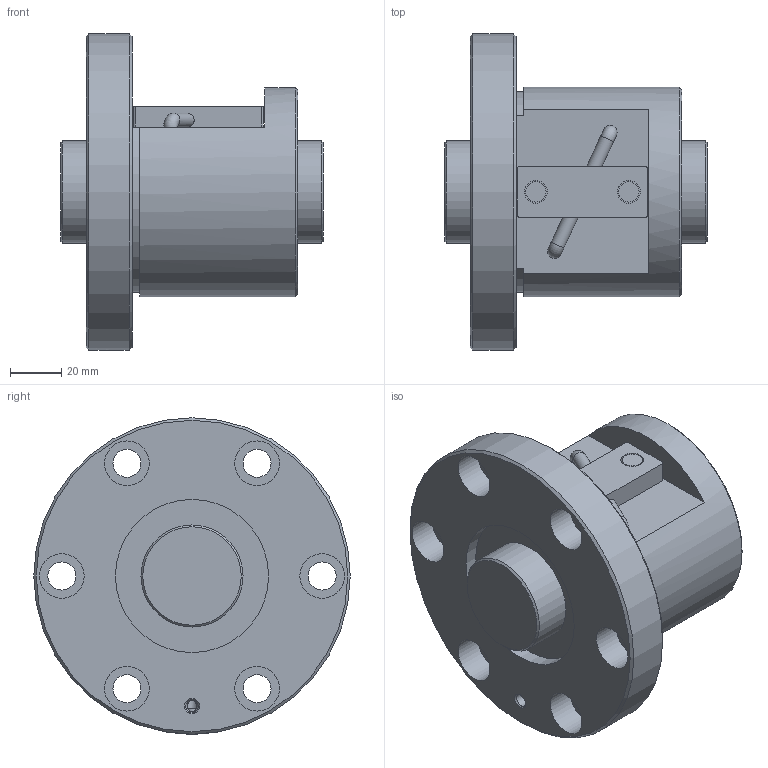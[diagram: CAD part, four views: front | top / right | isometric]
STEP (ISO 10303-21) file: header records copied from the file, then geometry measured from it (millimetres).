
FILE_DESCRIPTION(/* description */ ('STEP AP203'),/* implementation_level */ '2;1');
FILE_NAME(/* name */ 'BNF4010V-3.5RRG1+103LC0_000_rev',/* time_stamp */ '2024-08-06T08:40:53+02:00',/* author */ ('License CC BY-ND 4.0'),/* organization */ ('CADENAS'),/* preprocessor_version */ 'ST-DEVELOPER v19.3',/* originating_system */ 'PARTsolutions',/* authorisation */ ' ');
FILE_SCHEMA (('CONFIG_CONTROL_DESIGN'));
Length unit declared in the file: millimetre
Products named in the file (3): BNF4010V-3.5RRG1+103LC0_000_rev; BNF 4010-3.5RR000 Shaft; BNF 4010-3.5RR Nut
Assembly tree (2 placements, depth 2):
  BNF4010V-3.5RRG1+103LC0_000_rev
    BNF 4010-3.5RR000 Shaft
    BNF 4010-3.5RR Nut
Bounding box: 103 x 124 x 124 mm (x, y, z)
Volume: 519467.9 mm3; surface area: 79277 mm2
Topology: 2 solids, 2 shells, 69 faces, 148 edges, 96 vertices
Faces by surface type: cylinder 33, plane 27, cone 7, torus 2
Full cylindrical faces by diameter (mm): 4.5 x2, 4.917 x1, 5.465 x2, 8 x2, 9 x2, 11 x6, 17.5 x6, 40 x2, 60 x2, 82 x1, 124 x1
Entity records: 1755 total; most frequent: DIRECTION 312, CARTESIAN_POINT 296, ORIENTED_EDGE 200, AXIS2_PLACEMENT_3D 144, EDGE_LOOP 140, FACE_BOUND 140, EDGE_CURVE 100, VERTEX_POINT 86
